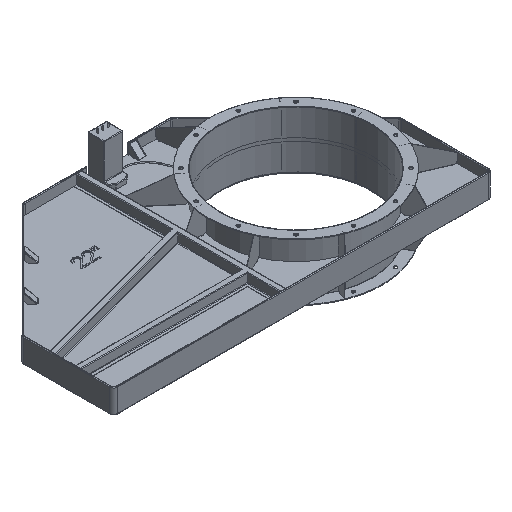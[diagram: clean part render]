
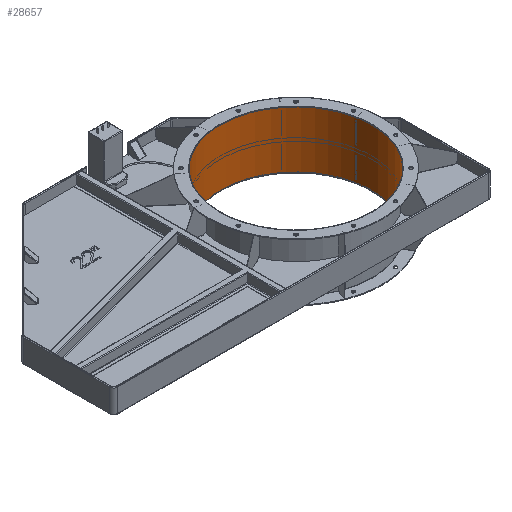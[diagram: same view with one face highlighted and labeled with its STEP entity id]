
A CAD part, isometric view. The second image highlights one B-rep face of the part: STEP entity #28657.
In plain terms, the highlighted free-form (B-spline) face has degree [2, 1] with [9, 2] control points.
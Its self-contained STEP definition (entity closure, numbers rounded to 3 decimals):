
#28602=CARTESIAN_POINT('',(0.,-278.5,-105.75));
#28603=VERTEX_POINT('',#28602);
#28604=CARTESIAN_POINT('',(0.,-278.5,-105.75));
#28605=CARTESIAN_POINT('',(-482.376,-278.5,-105.75));
#28606=CARTESIAN_POINT('',(-241.188,139.25,-105.75));
#28607=CARTESIAN_POINT('',(0.,557.,-105.75));
#28608=CARTESIAN_POINT('',(241.188,139.25,-105.75));
#28609=CARTESIAN_POINT('',(482.376,-278.5,-105.75));
#28610=CARTESIAN_POINT('',(0.,-278.5,-105.75));
#28611=(BOUNDED_CURVE()B_SPLINE_CURVE(2,(#28604,#28605,#28606,#28607,#28608,#28609,#28610),.CIRCULAR_ARC.,.T.,.U.)B_SPLINE_CURVE_WITH_KNOTS((3,2,2,3),(0.,0.333,0.667,1.),.UNSPECIFIED.)CURVE()GEOMETRIC_REPRESENTATION_ITEM()RATIONAL_B_SPLINE_CURVE((1.,0.5,1.,0.5,1.,0.5,1.))REPRESENTATION_ITEM(''));
#28612=EDGE_CURVE('',#28603,#28603,#28611,.T.);
#28617=CARTESIAN_POINT('',(0.,-278.5,-105.75));
#28618=CARTESIAN_POINT('',(0.,-278.5,105.75));
#28619=CARTESIAN_POINT('',(278.5,-278.5,-105.75));
#28620=CARTESIAN_POINT('',(278.5,-278.5,105.75));
#28621=CARTESIAN_POINT('',(278.5,0.,-105.75));
#28622=CARTESIAN_POINT('',(278.5,0.,105.75));
#28623=CARTESIAN_POINT('',(278.5,278.5,-105.75));
#28624=CARTESIAN_POINT('',(278.5,278.5,105.75));
#28625=CARTESIAN_POINT('',(0.,278.5,-105.75));
#28626=CARTESIAN_POINT('',(0.,278.5,105.75));
#28627=CARTESIAN_POINT('',(-278.5,278.5,-105.75));
#28628=CARTESIAN_POINT('',(-278.5,278.5,105.75));
#28629=CARTESIAN_POINT('',(-278.5,0.,-105.75));
#28630=CARTESIAN_POINT('',(-278.5,0.,105.75));
#28631=CARTESIAN_POINT('',(-278.5,-278.5,-105.75));
#28632=CARTESIAN_POINT('',(-278.5,-278.5,105.75));
#28633=CARTESIAN_POINT('',(0.,-278.5,-105.75));
#28634=CARTESIAN_POINT('',(0.,-278.5,105.75));
#28635=(BOUNDED_SURFACE()B_SPLINE_SURFACE(2,1,((#28617,#28618),(#28619,#28620),(#28621,#28622),(#28623,#28624),(#28625,#28626),(#28627,#28628),(#28629,#28630),(#28631,#28632),(#28633,#28634)),.CYLINDRICAL_SURF.,.T.,.F.,.U.)B_SPLINE_SURFACE_WITH_KNOTS((3,2,2,2,3),(2,2),(0.,0.25,0.5,0.75,1.),(0.,1.),.UNSPECIFIED.)GEOMETRIC_REPRESENTATION_ITEM()RATIONAL_B_SPLINE_SURFACE(((1.,1.),(0.707,0.707),(1.,1.),(0.707,0.707),(1.,1.),(0.707,0.707),(1.,1.),(0.707,0.707),(1.,1.)))REPRESENTATION_ITEM('')SURFACE());
#28636=ORIENTED_EDGE('',*,*,#28612,.F.);
#28637=CARTESIAN_POINT('',(0.,-278.5,105.75));
#28638=VERTEX_POINT('',#28637);
#28639=CARTESIAN_POINT('',(0.,-278.5,-105.75));
#28640=CARTESIAN_POINT('',(0.,-278.5,105.75));
#28641=B_SPLINE_CURVE_WITH_KNOTS('',1,(#28639,#28640),.POLYLINE_FORM.,.F.,.U.,(2,2),(0.,1.),.UNSPECIFIED.);
#28642=EDGE_CURVE('',#28603,#28638,#28641,.T.);
#28643=ORIENTED_EDGE('',*,*,#28642,.T.);
#28644=CARTESIAN_POINT('',(0.,-278.5,105.75));
#28645=CARTESIAN_POINT('',(-482.376,-278.5,105.75));
#28646=CARTESIAN_POINT('',(-241.188,139.25,105.75));
#28647=CARTESIAN_POINT('',(0.,557.,105.75));
#28648=CARTESIAN_POINT('',(241.188,139.25,105.75));
#28649=CARTESIAN_POINT('',(482.376,-278.5,105.75));
#28650=CARTESIAN_POINT('',(0.,-278.5,105.75));
#28651=(BOUNDED_CURVE()B_SPLINE_CURVE(2,(#28644,#28645,#28646,#28647,#28648,#28649,#28650),.CIRCULAR_ARC.,.T.,.U.)B_SPLINE_CURVE_WITH_KNOTS((3,2,2,3),(0.,0.333,0.667,1.),.UNSPECIFIED.)CURVE()GEOMETRIC_REPRESENTATION_ITEM()RATIONAL_B_SPLINE_CURVE((1.,0.5,1.,0.5,1.,0.5,1.))REPRESENTATION_ITEM(''));
#28652=EDGE_CURVE('',#28638,#28638,#28651,.T.);
#28653=ORIENTED_EDGE('',*,*,#28652,.T.);
#28654=ORIENTED_EDGE('',*,*,#28642,.F.);
#28655=EDGE_LOOP('',(#28636,#28643,#28653,#28654));
#28656=FACE_OUTER_BOUND('',#28655,.F.);
#28657=ADVANCED_FACE('',(#28656),#28635,.F.);
